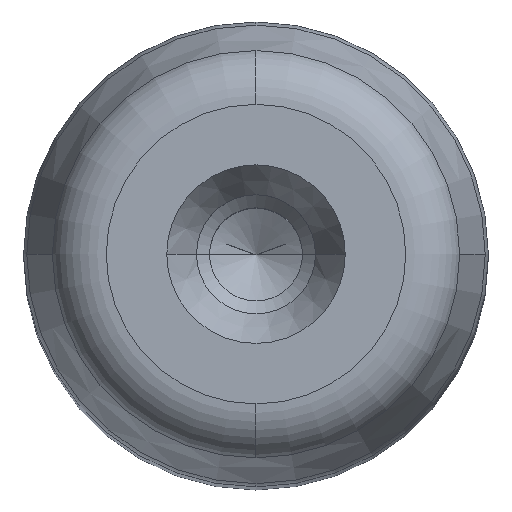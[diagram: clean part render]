
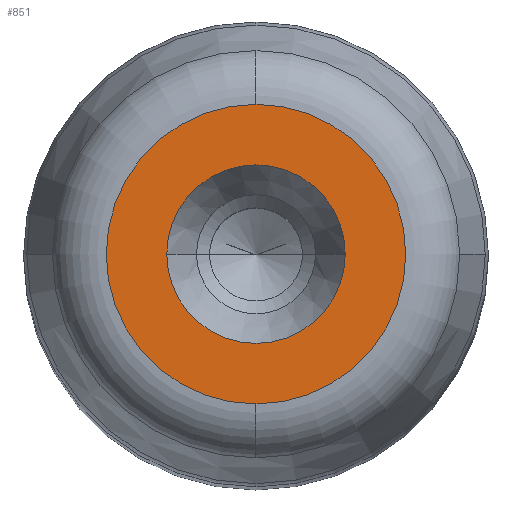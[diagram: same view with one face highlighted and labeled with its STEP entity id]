
A CAD part, top view. The second image highlights one B-rep face of the part: STEP entity #851.
In plain terms, the highlighted planar face has unit normal (0, 0, 1) as drawn and (0, 1, 0) by its records, which use the part's own axes.
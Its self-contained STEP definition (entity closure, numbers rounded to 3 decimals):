
#281=CARTESIAN_POINT('',(4.8,110.0,0.0));
#282=VERTEX_POINT('',#281);
#289=CARTESIAN_POINT('',(-4.8,110.0,0.));
#290=VERTEX_POINT('',#289);
#291=CARTESIAN_POINT('',(0.0,110.0,0.0));
#292=DIRECTION('',(0.0,1.0,0.0));
#293=DIRECTION('',(1.0,0.0,0.0));
#294=AXIS2_PLACEMENT_3D('',#291,#292,#293);
#295=CIRCLE('',#294,4.8);
#296=EDGE_CURVE('',#282,#290,#295,.T.);
#313=CARTESIAN_POINT('',(0.0,110.0,8.054));
#314=VERTEX_POINT('',#313);
#324=CARTESIAN_POINT('',(0.,110.0,-8.054));
#325=VERTEX_POINT('',#324);
#326=CARTESIAN_POINT('',(0.0,110.0,0.0));
#327=DIRECTION('',(0.0,1.0,0.0));
#328=DIRECTION('',(1.0,0.0,0.0));
#329=AXIS2_PLACEMENT_3D('',#326,#327,#328);
#330=CIRCLE('',#329,8.054);
#331=EDGE_CURVE('',#325,#314,#330,.T.);
#812=CARTESIAN_POINT('',(8.054,110.0,0.0));
#813=VERTEX_POINT('',#812);
#814=CARTESIAN_POINT('',(0.0,110.0,0.0));
#815=DIRECTION('',(0.0,1.0,0.0));
#816=DIRECTION('',(1.0,0.0,0.0));
#817=AXIS2_PLACEMENT_3D('',#814,#815,#816);
#818=CIRCLE('',#817,8.054);
#819=EDGE_CURVE('',#813,#325,#818,.T.);
#821=CARTESIAN_POINT('',(0.0,110.0,0.0));
#822=DIRECTION('',(0.0,1.0,0.0));
#823=DIRECTION('',(1.0,0.0,0.0));
#824=AXIS2_PLACEMENT_3D('',#821,#822,#823);
#825=CIRCLE('',#824,8.054);
#826=EDGE_CURVE('',#314,#813,#825,.T.);
#831=CARTESIAN_POINT('',(-8.86,110.0,-8.86));
#832=DIRECTION('',(0.0,1.0,0.0));
#833=DIRECTION('',(0.0,0.0,1.0));
#834=AXIS2_PLACEMENT_3D('',#831,#832,#833);
#835=PLANE('',#834);
#836=ORIENTED_EDGE('',*,*,#819,.T.);
#837=ORIENTED_EDGE('',*,*,#331,.T.);
#838=ORIENTED_EDGE('',*,*,#826,.T.);
#839=EDGE_LOOP('',(#836,#837,#838));
#840=FACE_OUTER_BOUND('',#839,.T.);
#841=ORIENTED_EDGE('',*,*,#296,.F.);
#842=CARTESIAN_POINT('',(0.0,110.0,0.0));
#843=DIRECTION('',(0.0,1.0,0.0));
#844=DIRECTION('',(1.0,0.0,0.0));
#845=AXIS2_PLACEMENT_3D('',#842,#843,#844);
#846=CIRCLE('',#845,4.8);
#847=EDGE_CURVE('',#290,#282,#846,.T.);
#848=ORIENTED_EDGE('',*,*,#847,.F.);
#849=EDGE_LOOP('',(#841,#848));
#850=FACE_BOUND('',#849,.T.);
#851=ADVANCED_FACE('',(#840,#850),#835,.T.);
